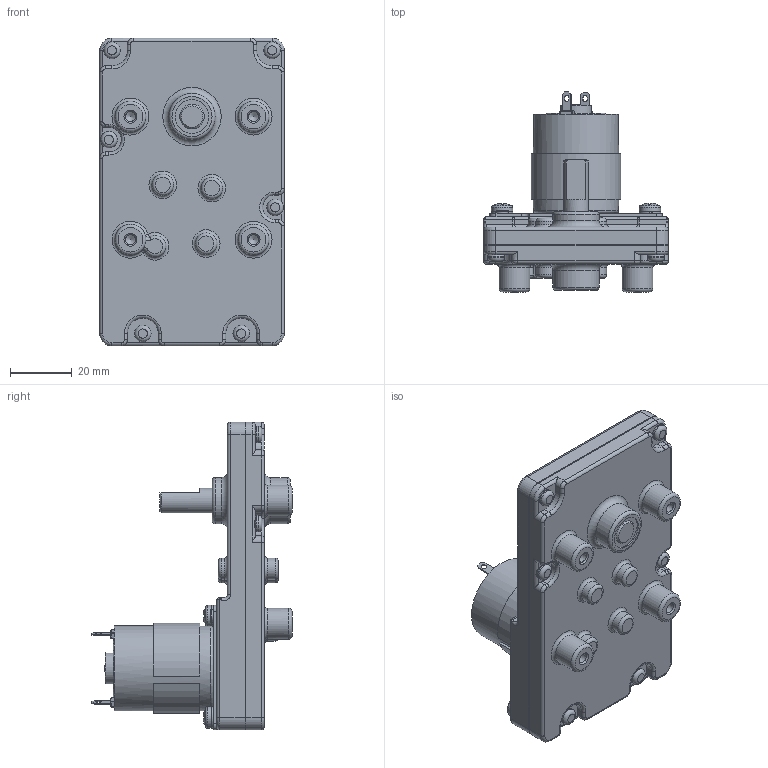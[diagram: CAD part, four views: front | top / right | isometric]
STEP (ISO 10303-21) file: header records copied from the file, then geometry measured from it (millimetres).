
FILE_DESCRIPTION(/* description */ (''),/* implementation_level */ '2;1');
FILE_NAME(/* name */ 'tp-3038#-FGL.stp',/* time_stamp */ '2024-05-27T14:25:52+09:00',/* author */ ('user'),/* organization */ (''),/* preprocessor_version */ 'ST-DEVELOPER v20',/* originating_system */ 'Autodesk Inventor 2024',/* authorisation */ '');
FILE_SCHEMA (('AUTOMOTIVE_DESIGN { 1 0 10303 214 3 1 1 }'));
Length unit declared in the file: millimetre
Products named in the file (7): tp-3038#-FGL-J00-24; TP-2932#(RS-365PH); M4×10-WS000; CSPPNB2-ST-M4-10-1_CSPPNB2-ST-M4-10-1; CSPPNB2-ST-M4-10-2_CSPPNB2-ST-M4-10-2; fgl; br0028
Assembly tree (7 placements, depth 3):
  tp-3038#-FGL-J00-24
    TP-2932#(RS-365PH)
    M4×10-WS000  x2
      CSPPNB2-ST-M4-10-1_CSPPNB2-ST-M4-10-1
      CSPPNB2-ST-M4-10-2_CSPPNB2-ST-M4-10-2
    fgl
    br0028
Bounding box: 60 x 65 x 100 mm (x, y, z)
Volume: 103950.9 mm3; surface area: 29919.9 mm2
Topology: 7 solids, 7 shells, 577 faces, 1348 edges, 837 vertices
Faces by surface type: plane 225, cylinder 218, torus 90, bspline 21, cone 17, sphere 6
Full cylindrical faces by diameter (mm): 2 x3, 2.113 x2, 2.3 x2, 2.459 x6, 2.5 x5, 2.8 x2, 3.242 x6, 3.65 x2, 4 x4, 4.1 x4, 5.4 x6, 6 x2, 7 x8, 8 x1, 9 x2, 10 x8, 11 x2, 14 x1, 15 x2, 19 x1, 26.7 x1, 27.7 x1
Entity records: 16521 total; most frequent: CARTESIAN_POINT 3311, DIRECTION 2932, ORIENTED_EDGE 2510, EDGE_CURVE 1255, AXIS2_PLACEMENT_3D 1180, VERTEX_POINT 786, EDGE_LOOP 635, CIRCLE 627
